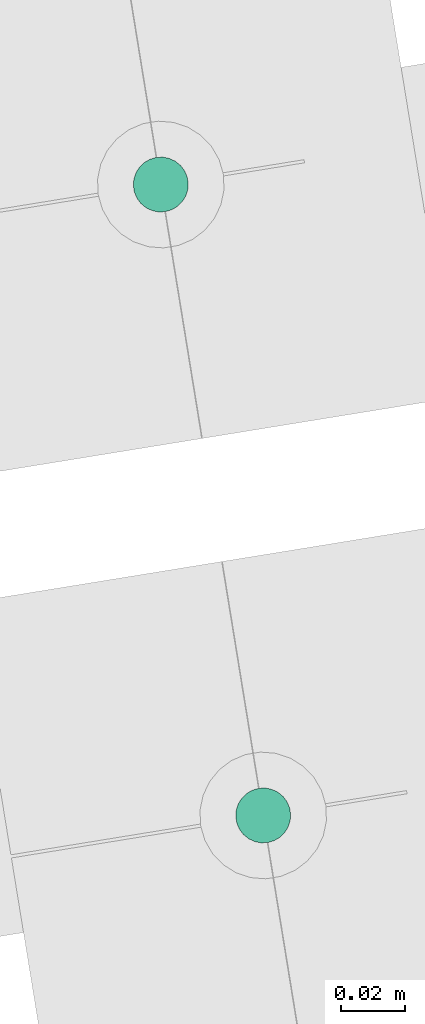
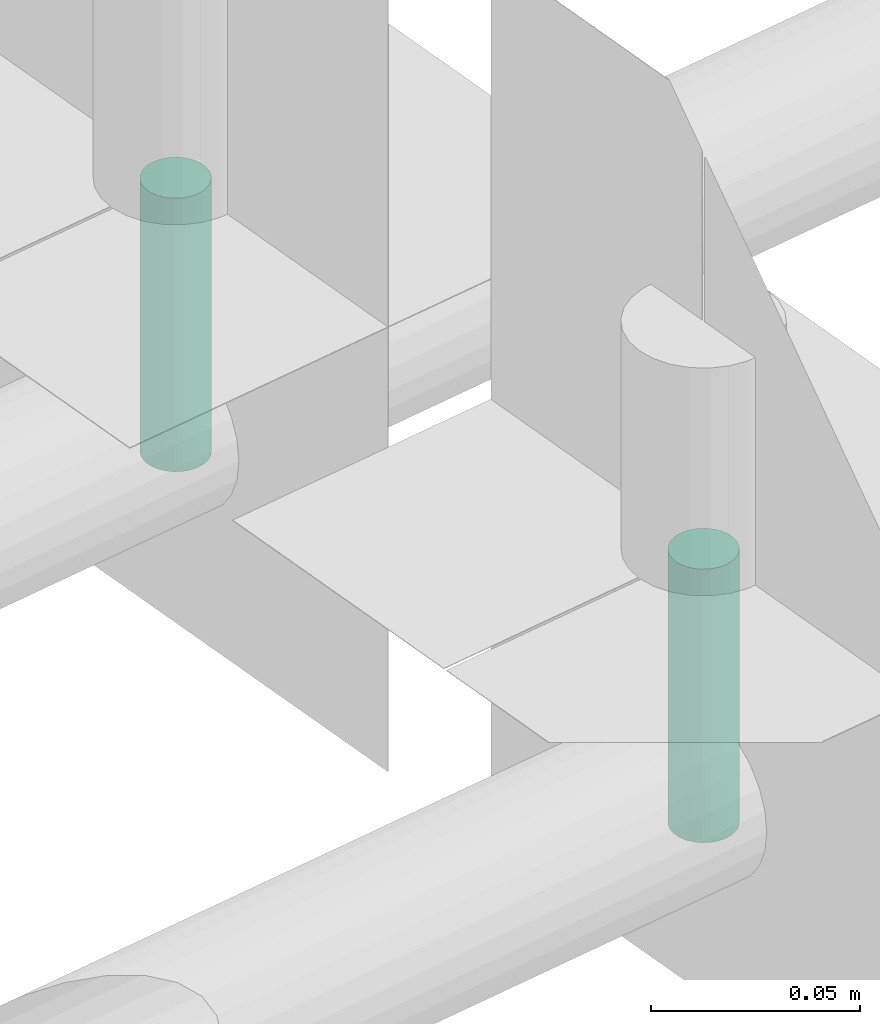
# One storey, part 5 of 8: 2 flow segments.
"""IFC2X3 building model written with IfcOpenShell, lengths in millimetres."""

from ifc_helpers import new_model, entity, si_unit, converted_unit, derived_unit, direction, frame, origin, origin_with_axes, origin_2d_with_axis, place, context, subcontext, project, spatial, circle, extrude, type_object, element, save


model = new_model("IFC2X3")

# Units and contexts
model_context = context("Model", 3, precision=0.01, world=origin(), true_north=direction((6.12323399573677e-17, 1.0)))
plan_context = context("Plan", 3, precision=1e-05, world=origin_with_axes())
body_context = subcontext(model_context, "Body", "Model", "MODEL_VIEW")
ifc_project = project(units=[converted_unit("PLANEANGLEUNIT", "DEGREE", entity("IfcPositiveLengthMeasure", 0.0174532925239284), si_unit("PLANEANGLEUNIT", "RADIAN"), dimensions=[0, 0, 0, 0, 0, 0, 0]), si_unit("AREAUNIT", "SQUARE_METRE"), si_unit("LENGTHUNIT", "METRE", prefix="MILLI"), si_unit("MASSUNIT", "GRAM", prefix="KILO"), si_unit("POWERUNIT", "WATT"), si_unit("PRESSUREUNIT", "PASCAL", prefix="KILO"), si_unit("FORCEUNIT", "NEWTON", prefix="KILO"), si_unit("ELECTRICVOLTAGEUNIT", "VOLT"), si_unit("ELECTRICCURRENTUNIT", "AMPERE"), si_unit("THERMODYNAMICTEMPERATUREUNIT", "DEGREE_CELSIUS"), si_unit("TIMEUNIT", "SECOND"), si_unit("VOLUMEUNIT", "CUBIC_METRE"), derived_unit("LINEARVELOCITYUNIT", [(si_unit("LENGTHUNIT", "METRE"), 1), (si_unit("TIMEUNIT", "SECOND"), -1)]), derived_unit("VOLUMETRICFLOWRATEUNIT", [(si_unit("VOLUMEUNIT", "CUBIC_METRE"), 1), (si_unit("TIMEUNIT", "SECOND"), -1)]), derived_unit("THERMALTRANSMITTANCEUNIT", [(si_unit("POWERUNIT", "WATT"), 1), (si_unit("THERMODYNAMICTEMPERATUREUNIT", "KELVIN"), -1), (si_unit("AREAUNIT", "SQUARE_METRE"), -1)]), derived_unit("SOUNDPRESSUREUNIT", [(si_unit("PRESSUREUNIT", "PASCAL"), 1)])], contexts=[model_context, plan_context])

# Site, building, storey
site_placement = place(None, frame((-0.00071070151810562, 0.00438415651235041, 0.0), z_axis=(0.0, 0.0, 1.0), x_axis=(-0.160236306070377, 0.987078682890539, 0.0)))
site = spatial("IfcSite", under=ifc_project, at=site_placement, Name="Default", CompositionType="ELEMENT")
building_placement = place(site_placement, origin_with_axes())
building = spatial("IfcBuilding", under=site, at=building_placement, CompositionType="ELEMENT")
storey_placement = place(building_placement, frame((0.0, 0.0, 50999.9999999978), z_axis=(0.0, 0.0, 1.0), x_axis=(1.0, 0.0, 0.0)))
storey = spatial("IfcBuildingStorey", under=building, at=storey_placement, Name="Nivå D", CompositionType="ELEMENT", Elevation=50999.9999999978)

# Flow segments
pipe_segment_type = type_object("IfcPipeSegmentType", Name="Pipe Types:Stålrør normaltykke", PredefinedType="NOTDEFINED")
flow_segment_1_placement = place(storey_placement, origin_with_axes())
element("IfcFlowSegment", 1, at=flow_segment_1_placement, inside=storey, type_object=pipe_segment_type, Name="Pipe Types:Stålrør normaltykke", ObjectType="Pipe Types:Stålrør normaltykke", context=body_context, shape_type="SweptSolid", body=[
    extrude(circle(Radius=8.60000039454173, at=origin_2d_with_axis()), frame((776930.860958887, -592151.206381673, 3289.73826175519)), (0.0, 0.0, 1.0), 79.9999999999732),
])
flow_segment_2_placement = place(storey_placement, origin_with_axes())
element("IfcFlowSegment", 2, at=flow_segment_2_placement, inside=storey, type_object=pipe_segment_type, Name="Pipe Types:Stålrør normaltykke", ObjectType="Pipe Types:Stålrør normaltykke", context=body_context, shape_type="SweptSolid", body=[
    extrude(circle(Radius=8.60000039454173, at=origin_2d_with_axis()), frame((777130.860958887, -592151.206381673, 3289.73826175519)), (0.0, 0.0, 1.0), 79.9999999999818),
])

save(model, "model.ifc")
